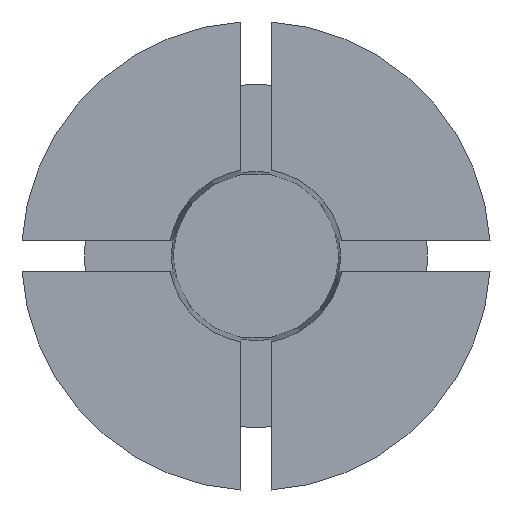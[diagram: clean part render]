
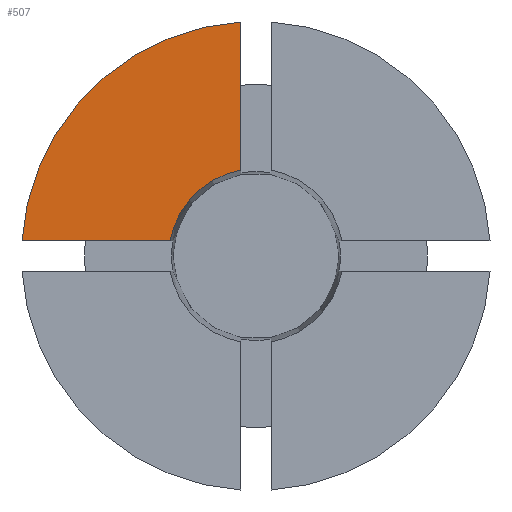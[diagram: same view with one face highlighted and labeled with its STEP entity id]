
A CAD part, front view. The second image highlights one B-rep face of the part: STEP entity #507.
In plain terms, the highlighted planar face has unit normal (0, -1, 0).
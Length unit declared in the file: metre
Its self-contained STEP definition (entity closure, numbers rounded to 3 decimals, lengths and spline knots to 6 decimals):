
#23=PLANE('',#555);
#50=LINE('',#1067,#76);
#51=LINE('',#1071,#77);
#76=VECTOR('',#623,1.);
#77=VECTOR('',#626,1.);
#134=ORIENTED_EDGE('',*,*,#285,.F.);
#135=ORIENTED_EDGE('',*,*,#286,.F.);
#136=ORIENTED_EDGE('',*,*,#287,.T.);
#137=ORIENTED_EDGE('',*,*,#288,.F.);
#285=EDGE_CURVE('',#360,#361,#408,.T.);
#286=EDGE_CURVE('',#362,#360,#50,.T.);
#287=EDGE_CURVE('',#362,#363,#409,.T.);
#288=EDGE_CURVE('',#361,#363,#51,.T.);
#360=VERTEX_POINT('',#1065);
#361=VERTEX_POINT('',#1066);
#362=VERTEX_POINT('',#1068);
#363=VERTEX_POINT('',#1070);
#408=CIRCLE('',#556,0.003962);
#409=CIRCLE('',#557,0.001473);
#434=EDGE_LOOP('',(#134,#135,#136,#137));
#470=FACE_BOUND('',#434,.T.);
#507=ADVANCED_FACE('',(#470),#23,.F.);
#555=AXIS2_PLACEMENT_3D('',#1063,#619,#620);
#556=AXIS2_PLACEMENT_3D('',#1064,#621,#622);
#557=AXIS2_PLACEMENT_3D('',#1069,#624,#625);
#619=DIRECTION('',(0.,1.,0.));
#620=DIRECTION('',(0.,0.,1.));
#621=DIRECTION('',(0.,1.,0.));
#622=DIRECTION('',(0.,0.,1.));
#623=DIRECTION('',(-1.,0.,0.));
#624=DIRECTION('',(0.,1.,0.));
#625=DIRECTION('',(0.,0.,1.));
#626=DIRECTION('',(0.,0.,-1.));
#1063=CARTESIAN_POINT('',(0.001473,0.,0.));
#1064=CARTESIAN_POINT('',(0.,0.,0.));
#1065=CARTESIAN_POINT('',(-0.003954,0.,0.000254));
#1066=CARTESIAN_POINT('',(-0.000254,0.,0.003954));
#1067=CARTESIAN_POINT('',(-0.00508,0.,0.000254));
#1068=CARTESIAN_POINT('',(-0.001451,0.,0.000254));
#1069=CARTESIAN_POINT('',(0.,0.,0.));
#1070=CARTESIAN_POINT('',(-0.000254,0.,0.001451));
#1071=CARTESIAN_POINT('',(-0.000254,0.,0.000254));
